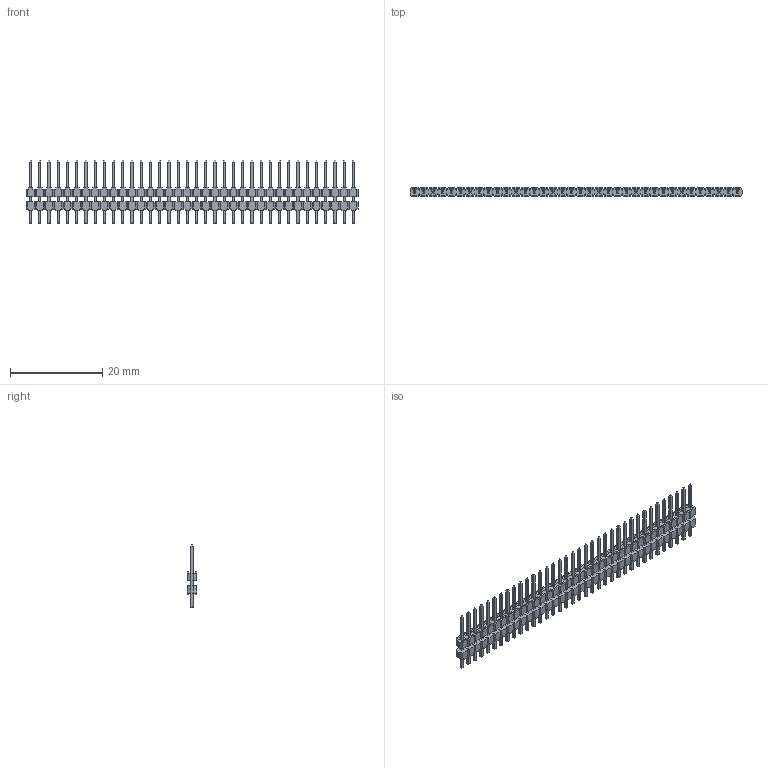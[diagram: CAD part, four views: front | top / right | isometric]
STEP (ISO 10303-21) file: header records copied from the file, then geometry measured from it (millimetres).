
FILE_DESCRIPTION(/* description */ (''),/* implementation_level */ '2;1');
FILE_NAME(/* name */ '951436-9061106-AR',/* time_stamp */ '2007-03-14T15:14:08+01:00',/* author */ (''),/* organization */ (''),/* preprocessor_version */ 'ST-DEVELOPER v9',/* originating_system */ 'UGS - NX 4.0',/* authorisation */ '');
FILE_SCHEMA (('AUTOMOTIVE_DESIGN { 1 0 10303 214 1 1 1 1 }'));
Length unit declared in the file: millimetre
Products named in the file (1): 951436-9061106-AR
Bounding box: 72 x 2 x 13.8 mm (x, y, z)
Volume: 538.1 mm3; surface area: 2079.4 mm2
Topology: 1 solids, 1 shells, 1808 faces, 4908 edges, 3176 vertices
Faces by surface type: plane 1664, cylinder 144
Entity records: 55636 total; most frequent: CARTESIAN_POINT 9893, ORIENTED_EDGE 9816, DIRECTION 8670, EDGE_CURVE 4908, LINE 4764, VECTOR 4764, VERTEX_POINT 3176, AXIS2_PLACEMENT_3D 1953
